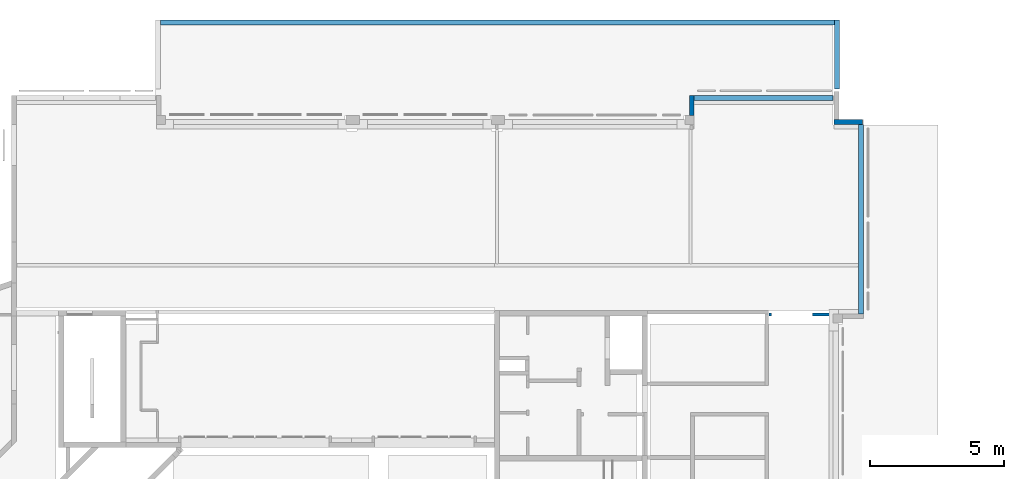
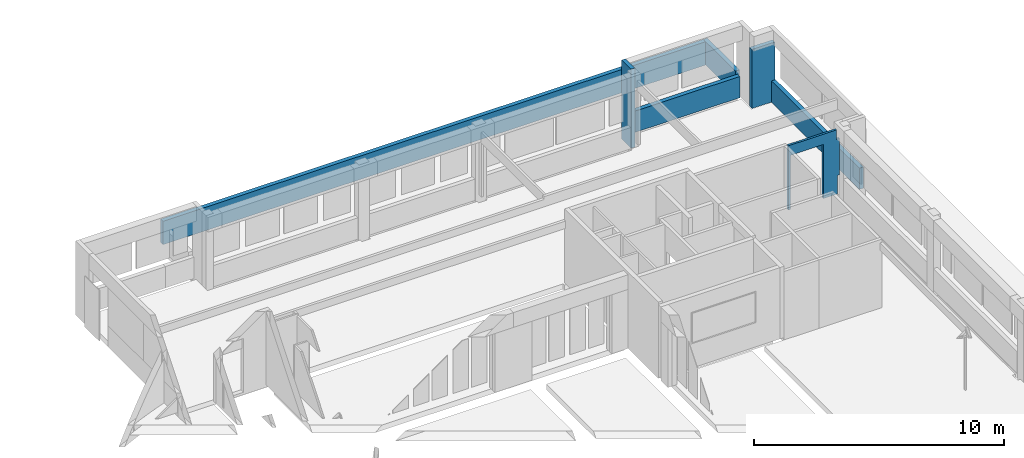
# One storey, part 22 of 30: 7 walls.
"""IFC4X3_ADD2 building model written with IfcOpenShell, lengths in millimetres."""

from ifc_helpers import new_model, si_unit, direction, frame, frame_2d, origin_with_axes, origin_2d_with_axis, place, context, subcontext, project, spatial, polyline, rectangle, outline, extrude, source, transform, mapped, material, type_object, type_shapes, element, save


model = new_model("IFC4X3_ADD2")

# Units and contexts
model_context = context("Model", 3, precision=1e-05, world=origin_with_axes(), true_north=direction((0.0, 1.0)))
body_context = subcontext(model_context, "Body", "Model", "MODEL_VIEW")
ifc_project = project(units=[si_unit("LENGTHUNIT", "METRE", prefix="MILLI"), si_unit("AREAUNIT", "SQUARE_METRE"), si_unit("VOLUMEUNIT", "CUBIC_METRE"), si_unit("PLANEANGLEUNIT", "RADIAN"), si_unit("TIMEUNIT", "SECOND"), si_unit("MASSUNIT", "GRAM")], contexts=[model_context])

# Site, building, storey
site_placement = place(None, origin_with_axes())
site = spatial("IfcSite", under=ifc_project, at=site_placement, Name="Site", CompositionType="ELEMENT")
building_placement = place(site_placement, origin_with_axes())
building = spatial("IfcBuilding", under=site, at=building_placement, Name="IFC Building Story")
storey_placement = place(building_placement, origin_with_axes())
storey = spatial("IfcBuildingStorey", under=building, at=storey_placement, Name="000", Elevation=0.0)

# Walls
ifc_material = material(Name="BB_Beton_Bestaand")
wall_type_1 = type_object("IfcWallType", Name="BB_Beton_Bestaand 190", PredefinedType="NOTDEFINED", material=ifc_material)
wall_1_placement = place(storey_placement, origin_with_axes())
element("IfcWall", 1, at=wall_1_placement, inside=storey, type_object=wall_type_1, Name="Basic Wall:BB_XX_Wand uit beton, 190 mm", ObjectType="Basic Wall:BB_XX_Wand uit beton, 190 mm", PredefinedType="SOLIDWALL", context=body_context, shape_type="SweptSolid", body=[
    extrude(rectangle(XDim=5210.0, YDim=189.9999999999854, at=origin_2d_with_axis()), frame((-2700.0, 51600.0, -200.0), z_axis=(0.0, 0.0, 1.0), x_axis=(1.0, 0.0, 0.0)), (0.0, 0.0, 1.0), 1040.0),
])
wall_2_placement = place(storey_placement, origin_with_axes())
element("IfcWall", 2, at=wall_2_placement, inside=storey, type_object=wall_type_1, Name="Basic Wall:BB_XX_Wand uit beton, 190 mm", ObjectType="Basic Wall:BB_XX_Wand uit beton, 190 mm", PredefinedType="SOLIDWALL", context=body_context, shape_type="SweptSolid", body=[
    extrude(rectangle(XDim=1054.99999999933, YDim=189.9999999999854, at=origin_2d_with_axis()), frame((467.499999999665, 50700.0, -200.0), z_axis=(0.0, 0.0, 1.0), x_axis=(1.0, 0.0, 0.0)), (0.0, 0.0, 1.0), 2880.0),
])
wall_3_placement = place(storey_placement, origin_with_axes())
element("IfcWall", 3, at=wall_3_placement, inside=storey, type_object=wall_type_1, Name="Basic Wall:BB_XX_Wand uit beton, 190 mm", ObjectType="Basic Wall:BB_XX_Wand uit beton, 190 mm", PredefinedType="SOLIDWALL", context=body_context, shape_type="SweptSolid", body=[
    extrude(rectangle(XDim=7030.000000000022, YDim=190.0, at=frame_2d((0.0, 0.0), x_axis=(0.0, 1.0))), frame((935.0, 47089.99999999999, -200.0), z_axis=(0.0, 0.0, 1.0), x_axis=(1.0, 0.0, 0.0)), (0.0, 0.0, 1.0), 1040.0),
])
wall_4_placement = place(storey_placement, origin_with_axes())
element("IfcWall", 4, at=wall_4_placement, inside=storey, type_object=wall_type_1, Name="Basic Wall:BB_XX_Wand uit beton, 190 mm", ObjectType="Basic Wall:BB_XX_Wand uit beton, 190 mm", PredefinedType="SOLIDWALL", context=body_context, shape_type="SweptSolid", body=[
    extrude(rectangle(XDim=25055.0, YDim=189.9999999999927, at=origin_2d_with_axis()), frame((-12582.5, 54404.9312295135, -320.0), z_axis=(0.0, 0.0, 1.0), x_axis=(1.0, 0.0, 0.0)), (0.0, 0.0, 1.0), 1140.0),
])
wall_5_placement = place(storey_placement, origin_with_axes())
element("IfcWall", 5, at=wall_5_placement, inside=storey, type_object=wall_type_1, Name="Basic Wall:BB_XX_Wand uit beton, 190 mm", ObjectType="Basic Wall:BB_XX_Wand uit beton, 190 mm", PredefinedType="SOLIDWALL", context=body_context, shape_type="SweptSolid", body=[
    extrude(rectangle(XDim=2569.931229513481, YDim=190.0, at=frame_2d((0.0, 0.0), x_axis=(0.0, 1.0))), frame((40.0, 53214.96561475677, -320.0), z_axis=(0.0, 0.0, 1.0), x_axis=(1.0, 0.0, 0.0)), (0.0, 0.0, 1.0), 1140.0),
])
wall_type_2 = type_object("IfcWallType", Name="BB_Beton_Bestaand 170", PredefinedType="NOTDEFINED", material=ifc_material)
wall_6_placement = place(storey_placement, origin_with_axes())
element("IfcWall", 6, at=wall_6_placement, inside=storey, type_object=wall_type_2, Name="Basic Wall:BB_XX_Wand uit beton, 170 mm", ObjectType="Basic Wall:BB_XX_Wand uit beton, 170 mm", PredefinedType="SOLIDWALL", context=body_context, shape_type="SweptSolid", body=[
    extrude(rectangle(XDim=750.0000000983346, YDim=170.0, at=frame_2d((0.0, 0.0), x_axis=(0.0, 1.0))), frame((-5355.0, 51320.00000004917, -460.0), z_axis=(0.0, 0.0, 1.0), x_axis=(1.0, 0.0, 0.0)), (0.0, 0.0, 1.0), 3860.0),
])
wall_type_3 = type_object("IfcWallType", Name="Basic Wall_BB_10.01.41#01_Gipskartonwand_MS100 _ 25.50.25_ 100 mm9", PredefinedType="NOTDEFINED")
shared_shape = source(origin_with_axes(), body_context, "Body", "SweptSolid", [
    extrude(outline(polyline([(188.749999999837, -1080.0), (188.749999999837, 1560.0), (841.2500000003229, 1560.0), (841.2500000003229, 660.0), (928.7500000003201, 660.0), (928.7500000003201, -1120.0), (803.7499999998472, -1120.0), (803.7499999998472, -1580.0), (-1431.25000000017, -1580.0), (-1431.25000000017, 1560.0), (-1331.25000000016, 1560.0), (-1331.25000000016, -1080.0), (188.749999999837, -1080.0)])), frame((1431.25000000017, 37.5, 1560.0), z_axis=(0.0, 1.0, 0.0), x_axis=(1.0, 0.0, 0.0)), (0.0, 0.0, 1.0), 12.50000000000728),
    extrude(outline(polyline([(188.749999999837, -1080.0), (188.749999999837, 1560.0), (841.2500000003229, 1560.0), (841.2500000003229, 660.0), (928.7500000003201, 660.0), (928.7500000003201, -1120.0), (803.7499999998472, -1120.0), (803.7499999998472, -1580.0), (-1431.25000000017, -1580.0), (-1431.25000000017, 1560.0), (-1331.25000000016, 1560.0), (-1331.25000000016, -1080.0), (188.749999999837, -1080.0)])), frame((1431.25000000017, 25.0, 1560.0), z_axis=(0.0, 1.0, 0.0), x_axis=(1.0, 0.0, 0.0)), (0.0, 0.0, 1.0), 12.49999999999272),
    extrude(outline(polyline([(188.749999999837, -1080.0), (188.749999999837, 1560.0), (841.2500000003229, 1560.0), (841.2500000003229, 660.0), (928.7500000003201, 660.0), (928.7500000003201, -1120.0), (803.7499999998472, -1120.0), (803.7499999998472, -1580.0), (-1431.25000000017, -1580.0), (-1431.25000000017, 1560.0), (-1331.25000000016, 1560.0), (-1331.25000000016, -1080.0), (188.749999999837, -1080.0)])), frame((1431.25000000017, -25.0, 1560.0), z_axis=(0.0, 1.0, 0.0), x_axis=(1.0, 0.0, 0.0)), (0.0, 0.0, 1.0), 50.00000000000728),
    extrude(outline(polyline([(188.749999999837, -1080.0), (188.749999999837, 1560.0), (841.2500000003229, 1560.0), (841.2500000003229, 660.0), (928.7500000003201, 660.0), (928.7500000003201, -1120.0), (803.7499999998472, -1120.0), (803.7499999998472, -1580.0), (-1431.25000000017, -1580.0), (-1431.25000000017, 1560.0), (-1331.25000000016, 1560.0), (-1331.25000000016, -1080.0), (188.749999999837, -1080.0)])), frame((1431.25000000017, -37.49999999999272, 1560.0), z_axis=(0.0, 1.0, 0.0), x_axis=(1.0, 0.0, 0.0)), (0.0, 0.0, 1.0), 12.5),
    extrude(outline(polyline([(-1431.25000000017, -1580.0), (-1431.25000000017, 1560.0), (-1331.25000000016, 1560.0), (-1331.25000000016, -1080.0), (188.749999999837, -1080.0), (188.749999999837, 1560.0), (841.2500000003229, 1560.0), (841.2500000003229, 660.0), (928.7500000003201, 660.0), (928.7500000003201, -1120.0), (803.7499999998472, -1120.0), (803.7499999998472, -1580.0), (-1431.25000000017, -1580.0)])), frame((1431.25000000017, -50.0, 1560.0), z_axis=(0.0, 1.0, 0.0), x_axis=(1.0, 0.0, 0.0)), (0.0, 0.0, 1.0), 12.50000000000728),
])
type_shapes(wall_type_3, [shared_shape])
wall_7_placement = place(storey_placement, frame((-2480.0, 43550.0, 0.0), z_axis=(0.0, 0.0, 1.0), x_axis=(1.0, 0.0, 0.0)))
element("IfcWall", 7, at=wall_7_placement, inside=storey, type_object=wall_type_3, Name="Basic Wall:BB_10.01.41#01_Gipskartonwand_MS100 / 25.50.25, 100 mm", ObjectType="Basic Wall:BB_10.01.41#01_Gipskartonwand_MS100 / 25.50.25, 100 mm", PredefinedType="PARTITIONING", context=body_context, shape_type="MappedRepresentation", body=[
    mapped(shared_shape, transform((0.0, 0.0, 0.0))),
])

save(model, "model.ifc")
